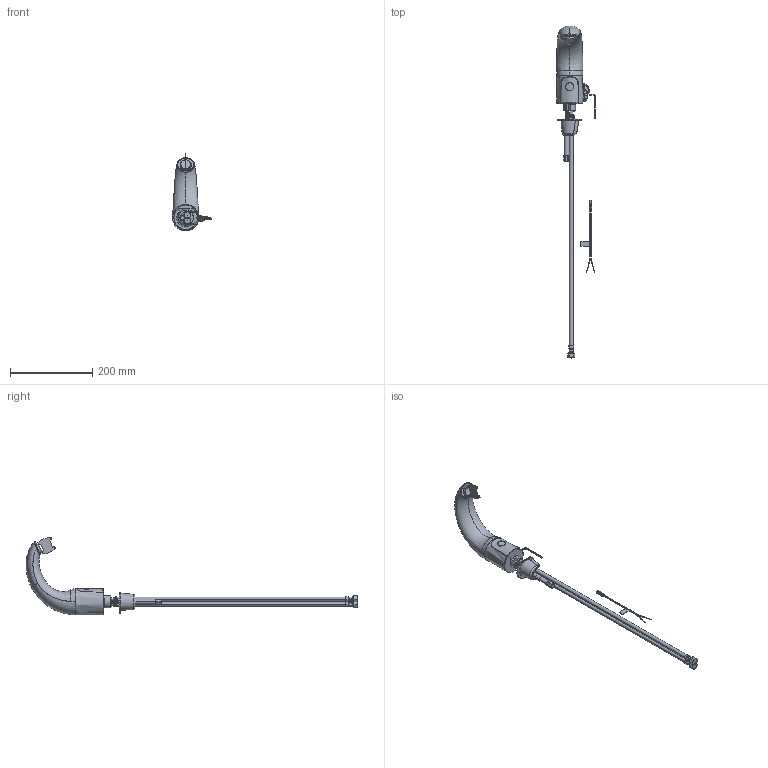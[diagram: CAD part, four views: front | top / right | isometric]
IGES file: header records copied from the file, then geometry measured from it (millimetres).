
Start section:  PTC IGES file: 116-122-ab-1t_REV062122.igs
Global section: file name: 116-122-ab-1t_REV062122.igs; native system: Creo Parametric by PTC Inc.; preprocessor: 2021184; author: rodjo; organization: Unknown; date: 20220621.090349; units: inch
Bounding box: 94.26 x 807.9 x 189.14 mm (x, y, z)
Surface area: 129192.6 mm2 (no closed solid volume)
Topology: 0 solids, 0 shells, 673 faces, 5415 edges, 7398 vertices
Faces by surface type: revolution 397, bspline 276
